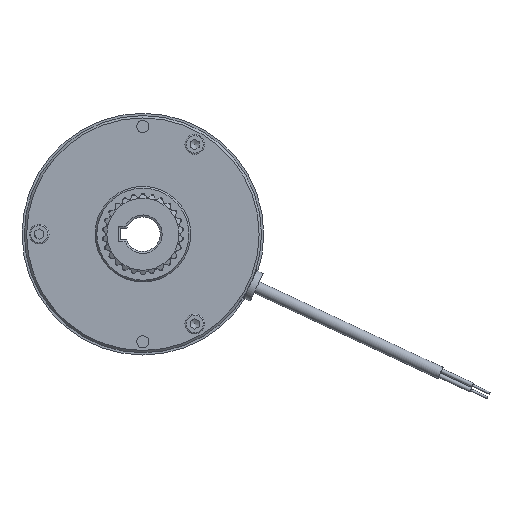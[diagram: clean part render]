
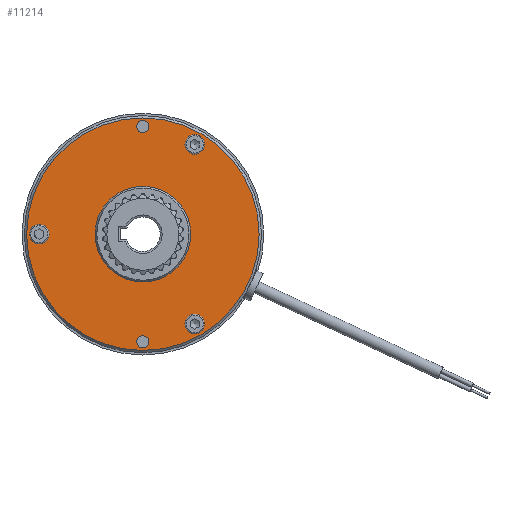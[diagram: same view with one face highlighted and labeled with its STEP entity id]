
A CAD part, left-side view. The second image highlights one B-rep face of the part: STEP entity #11214.
In plain terms, the highlighted planar face has unit normal (-1, 0, 0).
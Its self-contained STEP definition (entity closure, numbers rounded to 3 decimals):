
#140=FACE_BOUND('',#1224,.T.);
#141=FACE_BOUND('',#1225,.T.);
#142=FACE_BOUND('',#1226,.T.);
#143=FACE_BOUND('',#1227,.T.);
#144=FACE_BOUND('',#1228,.T.);
#145=FACE_BOUND('',#1229,.T.);
#280=PLANE('',#12139);
#664=FACE_OUTER_BOUND('',#1223,.T.);
#1223=EDGE_LOOP('',(#8721));
#1224=EDGE_LOOP('',(#8722,#8723));
#1225=EDGE_LOOP('',(#8724,#8725));
#1226=EDGE_LOOP('',(#8726,#8727));
#1227=EDGE_LOOP('',(#8728,#8729));
#1228=EDGE_LOOP('',(#8730,#8731));
#1229=EDGE_LOOP('',(#8732));
#3027=CIRCLE('',#11923,4.25);
#3028=CIRCLE('',#11924,4.25);
#3041=CIRCLE('',#11951,4.25);
#3042=CIRCLE('',#11952,4.25);
#3055=CIRCLE('',#11979,4.25);
#3056=CIRCLE('',#11980,4.25);
#3150=CIRCLE('',#12126,20.75);
#3161=CIRCLE('',#12140,50.5);
#3162=CIRCLE('',#12141,2.65);
#3163=CIRCLE('',#12142,2.65);
#3164=CIRCLE('',#12143,2.65);
#3165=CIRCLE('',#12144,2.65);
#4504=VERTEX_POINT('',#22185);
#4505=VERTEX_POINT('',#22186);
#4531=VERTEX_POINT('',#22277);
#4532=VERTEX_POINT('',#22278);
#4558=VERTEX_POINT('',#22369);
#4559=VERTEX_POINT('',#22370);
#4666=VERTEX_POINT('',#22795);
#4677=VERTEX_POINT('',#22821);
#4678=VERTEX_POINT('',#22823);
#4679=VERTEX_POINT('',#22824);
#4680=VERTEX_POINT('',#22827);
#4681=VERTEX_POINT('',#22828);
#5951=EDGE_CURVE('',#4504,#4505,#3027,.T.);
#5952=EDGE_CURVE('',#4505,#4504,#3028,.T.);
#5988=EDGE_CURVE('',#4531,#4532,#3041,.T.);
#5989=EDGE_CURVE('',#4532,#4531,#3042,.T.);
#6025=EDGE_CURVE('',#4558,#4559,#3055,.T.);
#6026=EDGE_CURVE('',#4559,#4558,#3056,.T.);
#6167=EDGE_CURVE('',#4666,#4666,#3150,.T.);
#6178=EDGE_CURVE('',#4677,#4677,#3161,.T.);
#6179=EDGE_CURVE('',#4678,#4679,#3162,.T.);
#6180=EDGE_CURVE('',#4679,#4678,#3163,.T.);
#6181=EDGE_CURVE('',#4680,#4681,#3164,.T.);
#6182=EDGE_CURVE('',#4681,#4680,#3165,.T.);
#8721=ORIENTED_EDGE('',*,*,#6178,.F.);
#8722=ORIENTED_EDGE('',*,*,#5951,.T.);
#8723=ORIENTED_EDGE('',*,*,#5952,.T.);
#8724=ORIENTED_EDGE('',*,*,#5988,.T.);
#8725=ORIENTED_EDGE('',*,*,#5989,.T.);
#8726=ORIENTED_EDGE('',*,*,#6025,.T.);
#8727=ORIENTED_EDGE('',*,*,#6026,.T.);
#8728=ORIENTED_EDGE('',*,*,#6179,.T.);
#8729=ORIENTED_EDGE('',*,*,#6180,.T.);
#8730=ORIENTED_EDGE('',*,*,#6181,.T.);
#8731=ORIENTED_EDGE('',*,*,#6182,.T.);
#8732=ORIENTED_EDGE('',*,*,#6167,.T.);
#11214=ADVANCED_FACE('',(#664,#140,#141,#142,#143,#144,#145),#280,.T.);
#11923=AXIS2_PLACEMENT_3D('',#22187,#13836,#13837);
#11924=AXIS2_PLACEMENT_3D('',#22188,#13838,#13839);
#11951=AXIS2_PLACEMENT_3D('',#22279,#13908,#13909);
#11952=AXIS2_PLACEMENT_3D('',#22280,#13910,#13911);
#11979=AXIS2_PLACEMENT_3D('',#22371,#13980,#13981);
#11980=AXIS2_PLACEMENT_3D('',#22372,#13982,#13983);
#12126=AXIS2_PLACEMENT_3D('',#22797,#14308,#14309);
#12139=AXIS2_PLACEMENT_3D('',#22820,#14334,#14335);
#12140=AXIS2_PLACEMENT_3D('',#22822,#14336,#14337);
#12141=AXIS2_PLACEMENT_3D('',#22825,#14338,#14339);
#12142=AXIS2_PLACEMENT_3D('',#22826,#14340,#14341);
#12143=AXIS2_PLACEMENT_3D('',#22829,#14342,#14343);
#12144=AXIS2_PLACEMENT_3D('',#22830,#14344,#14345);
#13836=DIRECTION('center_axis',(1.,0.,0.));
#13837=DIRECTION('ref_axis',(0.,-1.,0.));
#13838=DIRECTION('center_axis',(1.,0.,0.));
#13839=DIRECTION('ref_axis',(0.,-1.,0.));
#13908=DIRECTION('center_axis',(1.,0.,0.));
#13909=DIRECTION('ref_axis',(0.,-1.,0.));
#13910=DIRECTION('center_axis',(1.,0.,0.));
#13911=DIRECTION('ref_axis',(0.,-1.,0.));
#13980=DIRECTION('center_axis',(1.,0.,0.));
#13981=DIRECTION('ref_axis',(0.,-1.,0.));
#13982=DIRECTION('center_axis',(1.,0.,0.));
#13983=DIRECTION('ref_axis',(0.,-1.,0.));
#14308=DIRECTION('center_axis',(1.,0.,0.));
#14309=DIRECTION('ref_axis',(0.,0.,1.));
#14334=DIRECTION('center_axis',(-1.,0.,0.));
#14335=DIRECTION('ref_axis',(0.,0.,1.));
#14336=DIRECTION('center_axis',(1.,0.,0.));
#14337=DIRECTION('ref_axis',(0.,-1.,0.));
#14338=DIRECTION('center_axis',(1.,0.,0.));
#14339=DIRECTION('ref_axis',(0.,0.,1.));
#14340=DIRECTION('center_axis',(1.,0.,0.));
#14341=DIRECTION('ref_axis',(0.,0.,1.));
#14342=DIRECTION('center_axis',(1.,0.,0.));
#14343=DIRECTION('ref_axis',(0.,0.,1.));
#14344=DIRECTION('center_axis',(1.,0.,0.));
#14345=DIRECTION('ref_axis',(0.,0.,1.));
#22185=CARTESIAN_POINT('',(-18.2,-26.75,-38.971));
#22186=CARTESIAN_POINT('',(-18.2,-18.25,-38.971));
#22187=CARTESIAN_POINT('Origin',(-18.2,-22.5,-38.971));
#22188=CARTESIAN_POINT('Origin',(-18.2,-22.5,-38.971));
#22277=CARTESIAN_POINT('',(-18.2,-26.75,38.971));
#22278=CARTESIAN_POINT('',(-18.2,-18.25,38.971));
#22279=CARTESIAN_POINT('Origin',(-18.2,-22.5,38.971));
#22280=CARTESIAN_POINT('Origin',(-18.2,-22.5,38.971));
#22369=CARTESIAN_POINT('',(-18.2,40.75,0.));
#22370=CARTESIAN_POINT('',(-18.2,49.25,0.));
#22371=CARTESIAN_POINT('Origin',(-18.2,45.,0.));
#22372=CARTESIAN_POINT('Origin',(-18.2,45.,0.));
#22795=CARTESIAN_POINT('',(-18.2,0.,-20.75));
#22797=CARTESIAN_POINT('Origin',(-18.2,0.,
0.));
#22820=CARTESIAN_POINT('Origin',(-18.2,25.75,0.));
#22821=CARTESIAN_POINT('',(-18.2,50.5,0.));
#22822=CARTESIAN_POINT('Origin',(-18.2,0.,
0.));
#22823=CARTESIAN_POINT('',(-18.2,0.,49.4));
#22824=CARTESIAN_POINT('',(-18.2,0.,44.1));
#22825=CARTESIAN_POINT('Origin',(-18.2,0.,
46.75));
#22826=CARTESIAN_POINT('Origin',(-18.2,0.,
46.75));
#22827=CARTESIAN_POINT('',(-18.2,0.,-44.1));
#22828=CARTESIAN_POINT('',(-18.2,0.,-49.4));
#22829=CARTESIAN_POINT('Origin',(-18.2,0.,
-46.75));
#22830=CARTESIAN_POINT('Origin',(-18.2,0.,
-46.75));
